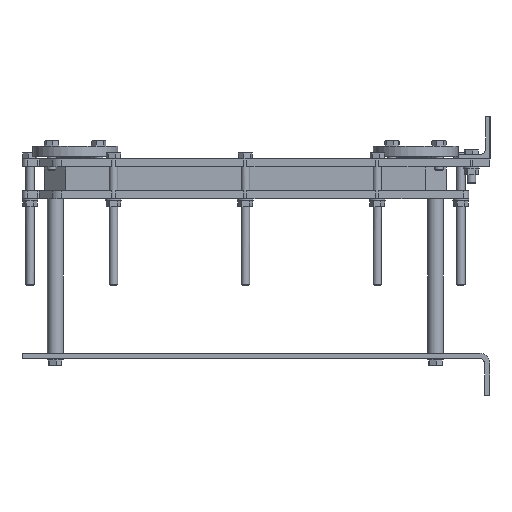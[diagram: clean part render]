
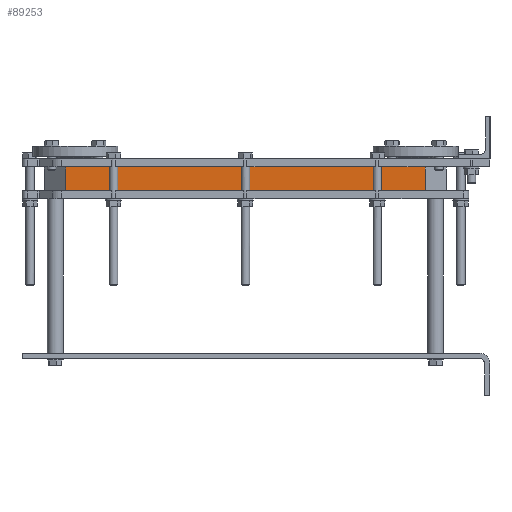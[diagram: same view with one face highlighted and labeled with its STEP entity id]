
A CAD part, left-side view. The second image highlights one B-rep face of the part: STEP entity #89253.
In plain terms, the highlighted planar face has unit normal (-1, 0, 0).
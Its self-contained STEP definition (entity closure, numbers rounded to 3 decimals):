
#437 = CARTESIAN_POINT ( 'NONE',  ( 22., 122., -95. ) ) ;
#2144 = FACE_OUTER_BOUND ( 'NONE', #57606, .T. ) ;
#7342 = VECTOR ( 'NONE', #71024, 1000. ) ;
#13010 = VERTEX_POINT ( 'NONE', #55699 ) ;
#13511 = VECTOR ( 'NONE', #27455, 1000. ) ;
#13783 = AXIS2_PLACEMENT_3D ( 'NONE', #85006, #90108, #63868 ) ;
#14047 = ORIENTED_EDGE ( 'NONE', *, *, #71277, .F. ) ;
#15746 = CARTESIAN_POINT ( 'NONE',  ( 22., 798., -95. ) ) ;
#19936 = CARTESIAN_POINT ( 'NONE',  ( 22., 798., -95. ) ) ;
#21560 = CARTESIAN_POINT ( 'NONE',  ( 22., 798., -140. ) ) ;
#23771 = ORIENTED_EDGE ( 'NONE', *, *, #43875, .F. ) ;
#24190 = LINE ( 'NONE', #15746, #56256 ) ;
#26017 = ORIENTED_EDGE ( 'NONE', *, *, #92635, .F. ) ;
#27455 = DIRECTION ( 'NONE',  ( 0., 1., 0. ) ) ;
#29517 = DIRECTION ( 'NONE',  ( 0., -1., 0. ) ) ;
#32946 = LINE ( 'NONE', #33552, #13511 ) ;
#33552 = CARTESIAN_POINT ( 'NONE',  ( 22., 798., -140. ) ) ;
#42015 = VERTEX_POINT ( 'NONE', #21560 ) ;
#42885 = VERTEX_POINT ( 'NONE', #47559 ) ;
#43858 = DIRECTION ( 'NONE',  ( 0., 0., -1. ) ) ;
#43875 = EDGE_CURVE ( 'NONE', #42885, #13010, #64901, .T. ) ;
#47559 = CARTESIAN_POINT ( 'NONE',  ( 22., 122., -95. ) ) ;
#55699 = CARTESIAN_POINT ( 'NONE',  ( 22., 122., -140. ) ) ;
#56256 = VECTOR ( 'NONE', #29517, 1000. ) ;
#57606 = EDGE_LOOP ( 'NONE', ( #14047, #81671, #26017, #23771 ) ) ;
#61076 = LINE ( 'NONE', #19936, #7342 ) ;
#63230 = PLANE ( 'NONE',  #13783 ) ;
#63868 = DIRECTION ( 'NONE',  ( 0., 1., 0. ) ) ;
#64901 = LINE ( 'NONE', #437, #71787 ) ;
#71024 = DIRECTION ( 'NONE',  ( 0., 0., -1. ) ) ;
#71277 = EDGE_CURVE ( 'NONE', #71672, #42885, #24190, .T. ) ;
#71672 = VERTEX_POINT ( 'NONE', #72562 ) ;
#71787 = VECTOR ( 'NONE', #43858, 1000. ) ;
#72562 = CARTESIAN_POINT ( 'NONE',  ( 22., 798., -95. ) ) ;
#76943 = EDGE_CURVE ( 'NONE', #71672, #42015, #61076, .T. ) ;
#81671 = ORIENTED_EDGE ( 'NONE', *, *, #76943, .T. ) ;
#85006 = CARTESIAN_POINT ( 'NONE',  ( 22., 122., -95. ) ) ;
#89253 = ADVANCED_FACE ( 'NONE', ( #2144 ), #63230, .T. ) ;
#90108 = DIRECTION ( 'NONE',  ( -1., 0., 0. ) ) ;
#92635 = EDGE_CURVE ( 'NONE', #13010, #42015, #32946, .T. ) ;
